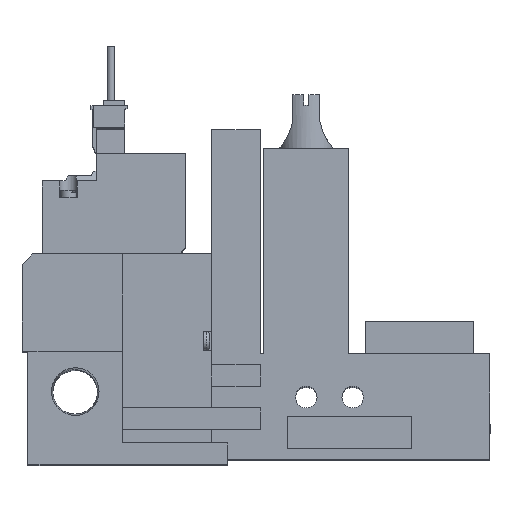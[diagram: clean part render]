
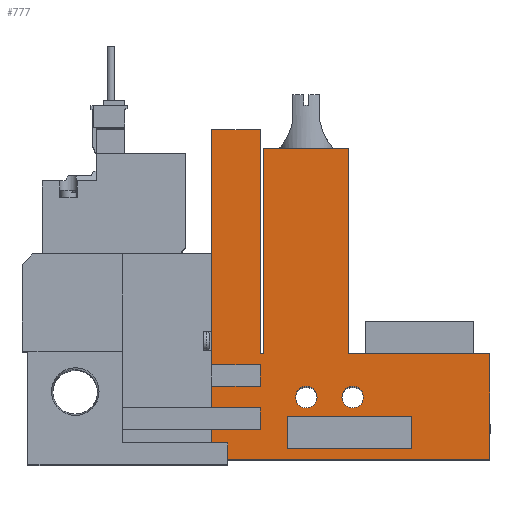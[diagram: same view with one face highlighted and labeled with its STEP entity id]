
A CAD part, top view. The second image highlights one B-rep face of the part: STEP entity #777.
In plain terms, the highlighted planar face has unit normal (0, 0, 1).
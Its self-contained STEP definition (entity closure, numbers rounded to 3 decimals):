
#777=ADVANCED_FACE('',(#1512,#1513,#1514,#1515),#1516,.T.);
#1512=FACE_OUTER_BOUND('',#2514,.T.);
#1513=FACE_BOUND('',#2515,.T.);
#1514=FACE_BOUND('',#2516,.T.);
#1515=FACE_BOUND('',#2517,.T.);
#1516=PLANE('',#2518);
#2514=EDGE_LOOP('',(#5175,#5176,#5177,#5178,#5179,#5180,#5181,#5182,#5183,#5184,#5185,#5186,#5187,#5188,#5189,#5190,#5191,#5192));
#2515=EDGE_LOOP('',(#5193,#5194,#5195,#5196));
#2516=EDGE_LOOP('',(#5197));
#2517=EDGE_LOOP('',(#5198));
#2518=AXIS2_PLACEMENT_3D('',#5199,#5200,#5201);
#5175=ORIENTED_EDGE('',*,*,#7031,.T.);
#5176=ORIENTED_EDGE('',*,*,#7032,.T.);
#5177=ORIENTED_EDGE('',*,*,#6985,.T.);
#5178=ORIENTED_EDGE('',*,*,#7033,.T.);
#5179=ORIENTED_EDGE('',*,*,#6994,.T.);
#5180=ORIENTED_EDGE('',*,*,#6967,.T.);
#5181=ORIENTED_EDGE('',*,*,#7034,.T.);
#5182=ORIENTED_EDGE('',*,*,#7029,.T.);
#5183=ORIENTED_EDGE('',*,*,#7035,.T.);
#5184=ORIENTED_EDGE('',*,*,#7036,.T.);
#5185=ORIENTED_EDGE('',*,*,#6946,.T.);
#5186=ORIENTED_EDGE('',*,*,#7037,.T.);
#5187=ORIENTED_EDGE('',*,*,#7038,.T.);
#5188=ORIENTED_EDGE('',*,*,#6991,.T.);
#5189=ORIENTED_EDGE('',*,*,#7039,.T.);
#5190=ORIENTED_EDGE('',*,*,#7040,.T.);
#5191=ORIENTED_EDGE('',*,*,#6963,.T.);
#5192=ORIENTED_EDGE('',*,*,#7026,.T.);
#5193=ORIENTED_EDGE('',*,*,#7041,.T.);
#5194=ORIENTED_EDGE('',*,*,#6988,.T.);
#5195=ORIENTED_EDGE('',*,*,#7042,.T.);
#5196=ORIENTED_EDGE('',*,*,#7043,.T.);
#5197=ORIENTED_EDGE('',*,*,#6952,.T.);
#5198=ORIENTED_EDGE('',*,*,#7044,.T.);
#5199=CARTESIAN_POINT('',(0.0,0.0,10.0));
#5200=DIRECTION('',(0.0,0.0,1.0));
#5201=DIRECTION('',(1.0,0.0,0.0));
#6946=EDGE_CURVE('',#8443,#8441,#8444,.T.);
#6952=EDGE_CURVE('',#8453,#8453,#8454,.T.);
#6963=EDGE_CURVE('',#8476,#8474,#8477,.T.);
#6967=EDGE_CURVE('',#8483,#8484,#8485,.T.);
#6985=EDGE_CURVE('',#8508,#8513,#8515,.T.);
#6988=EDGE_CURVE('',#8516,#8518,#8520,.T.);
#6991=EDGE_CURVE('',#8526,#8524,#8527,.T.);
#6994=EDGE_CURVE('',#8530,#8483,#8531,.T.);
#7026=EDGE_CURVE('',#8474,#8575,#8577,.T.);
#7029=EDGE_CURVE('',#8582,#8580,#8583,.T.);
#7031=EDGE_CURVE('',#8575,#8585,#8586,.T.);
#7032=EDGE_CURVE('',#8585,#8508,#8587,.T.);
#7033=EDGE_CURVE('',#8513,#8530,#8588,.T.);
#7034=EDGE_CURVE('',#8484,#8582,#8589,.T.);
#7035=EDGE_CURVE('',#8580,#8590,#8591,.T.);
#7036=EDGE_CURVE('',#8590,#8443,#8592,.T.);
#7037=EDGE_CURVE('',#8441,#8593,#8594,.T.);
#7038=EDGE_CURVE('',#8593,#8526,#8595,.T.);
#7039=EDGE_CURVE('',#8524,#8596,#8597,.T.);
#7040=EDGE_CURVE('',#8596,#8476,#8598,.T.);
#7041=EDGE_CURVE('',#8599,#8516,#8600,.T.);
#7042=EDGE_CURVE('',#8518,#8601,#8602,.T.);
#7043=EDGE_CURVE('',#8601,#8599,#8603,.T.);
#7044=EDGE_CURVE('',#8604,#8604,#8605,.T.);
#8441=VERTEX_POINT('',#10857);
#8443=VERTEX_POINT('',#10860);
#8444=LINE('',#10861,#10862);
#8453=VERTEX_POINT('',#10875);
#8454=CIRCLE('',#10876,2.0);
#8474=VERTEX_POINT('',#10905);
#8476=VERTEX_POINT('',#10908);
#8477=LINE('',#10909,#10910);
#8483=VERTEX_POINT('',#10917);
#8484=VERTEX_POINT('',#10918);
#8485=LINE('',#10919,#10920);
#8508=VERTEX_POINT('',#10955);
#8513=VERTEX_POINT('',#10962);
#8515=LINE('',#10965,#10966);
#8516=VERTEX_POINT('',#10967);
#8518=VERTEX_POINT('',#10970);
#8520=LINE('',#10973,#10974);
#8524=VERTEX_POINT('',#10979);
#8526=VERTEX_POINT('',#10982);
#8527=LINE('',#10983,#10984);
#8530=VERTEX_POINT('',#10989);
#8531=LINE('',#10990,#10991);
#8575=VERTEX_POINT('',#11061);
#8577=LINE('',#11064,#11065);
#8580=VERTEX_POINT('',#11069);
#8582=VERTEX_POINT('',#11072);
#8583=LINE('',#11073,#11074);
#8585=VERTEX_POINT('',#11077);
#8586=LINE('',#11078,#11079);
#8587=LINE('',#11080,#11081);
#8588=LINE('',#11082,#11083);
#8589=LINE('',#11084,#11085);
#8590=VERTEX_POINT('',#11086);
#8591=LINE('',#11087,#11088);
#8592=LINE('',#11089,#11090);
#8593=VERTEX_POINT('',#11091);
#8594=LINE('',#11092,#11093);
#8595=LINE('',#11094,#11095);
#8596=VERTEX_POINT('',#11096);
#8597=LINE('',#11097,#11098);
#8598=LINE('',#11099,#11100);
#8599=VERTEX_POINT('',#11101);
#8600=LINE('',#11102,#11103);
#8601=VERTEX_POINT('',#11104);
#8602=LINE('',#11105,#11106);
#8603=LINE('',#11107,#11108);
#8604=VERTEX_POINT('',#11109);
#8605=CIRCLE('',#11110,2.0);
#10857=CARTESIAN_POINT('',(86.6,19.5,10.0));
#10860=CARTESIAN_POINT('',(86.6,0.0,10.0));
#10861=CARTESIAN_POINT('',(86.6,0.0,10.0));
#10862=VECTOR('',#12770,1.0);
#10875=CARTESIAN_POINT('',(54.6,11.5,10.0));
#10876=AXIS2_PLACEMENT_3D('',#12778,#12779,#12780);
#10905=CARTESIAN_POINT('',(44.1,61.0,10.0));
#10908=CARTESIAN_POINT('',(44.1,19.5,10.0));
#10909=CARTESIAN_POINT('',(44.1,19.5,10.0));
#10910=VECTOR('',#12791,1.0);
#10917=CARTESIAN_POINT('',(35.1,9.5,10.0));
#10918=CARTESIAN_POINT('',(44.1,9.5,10.0));
#10919=CARTESIAN_POINT('',(0.0,9.5,10.0));
#10920=VECTOR('',#12799,1.0);
#10955=CARTESIAN_POINT('',(44.1,17.5,10.0));
#10962=CARTESIAN_POINT('',(44.1,13.5,10.0));
#10965=CARTESIAN_POINT('',(44.1,0.0,10.0));
#10966=VECTOR('',#12821,1.0);
#10967=CARTESIAN_POINT('',(49.1,8.0,10.0));
#10970=CARTESIAN_POINT('',(72.1,8.0,10.0));
#10973=CARTESIAN_POINT('',(0.0,8.0,10.0));
#10974=VECTOR('',#12824,1.0);
#10979=CARTESIAN_POINT('',(44.75,57.5,10.0));
#10982=CARTESIAN_POINT('',(60.45,57.5,10.0));
#10983=CARTESIAN_POINT('',(60.45,57.5,10.0));
#10984=VECTOR('',#12827,1.0);
#10989=CARTESIAN_POINT('',(35.1,13.5,10.0));
#10990=CARTESIAN_POINT('',(35.1,0.0,10.0));
#10991=VECTOR('',#12830,1.0);
#11061=CARTESIAN_POINT('',(35.1,61.0,10.0));
#11064=CARTESIAN_POINT('',(44.1,61.0,10.0));
#11065=VECTOR('',#12870,1.0);
#11069=CARTESIAN_POINT('',(35.1,5.5,10.0));
#11072=CARTESIAN_POINT('',(44.1,5.5,10.0));
#11073=CARTESIAN_POINT('',(0.0,5.5,10.0));
#11074=VECTOR('',#12873,1.0);
#11077=CARTESIAN_POINT('',(35.1,17.5,10.0));
#11078=CARTESIAN_POINT('',(35.1,61.0,10.0));
#11079=VECTOR('',#12875,1.0);
#11080=CARTESIAN_POINT('',(0.0,17.5,10.0));
#11081=VECTOR('',#12876,1.0);
#11082=CARTESIAN_POINT('',(0.0,13.5,10.0));
#11083=VECTOR('',#12877,1.0);
#11084=CARTESIAN_POINT('',(44.1,0.0,10.0));
#11085=VECTOR('',#12878,1.0);
#11086=CARTESIAN_POINT('',(35.1,0.0,10.0));
#11087=CARTESIAN_POINT('',(35.1,0.0,10.0));
#11088=VECTOR('',#12879,1.0);
#11089=CARTESIAN_POINT('',(18.6,0.0,10.0));
#11090=VECTOR('',#12880,1.0);
#11091=CARTESIAN_POINT('',(60.45,19.5,10.0));
#11092=CARTESIAN_POINT('',(86.6,19.5,10.0));
#11093=VECTOR('',#12881,1.0);
#11094=CARTESIAN_POINT('',(60.45,19.5,10.0));
#11095=VECTOR('',#12882,1.0);
#11096=CARTESIAN_POINT('',(44.75,19.5,10.0));
#11097=CARTESIAN_POINT('',(44.75,57.5,10.0));
#11098=VECTOR('',#12883,1.0);
#11099=CARTESIAN_POINT('',(44.75,19.5,10.0));
#11100=VECTOR('',#12884,1.0);
#11101=CARTESIAN_POINT('',(49.1,2.0,10.0));
#11102=CARTESIAN_POINT('',(49.1,0.0,10.0));
#11103=VECTOR('',#12885,1.0);
#11104=CARTESIAN_POINT('',(72.1,2.0,10.0));
#11105=CARTESIAN_POINT('',(72.1,0.0,10.0));
#11106=VECTOR('',#12886,1.0);
#11107=CARTESIAN_POINT('',(0.0,2.0,10.0));
#11108=VECTOR('',#12887,1.0);
#11109=CARTESIAN_POINT('',(63.2,11.5,10.0));
#11110=AXIS2_PLACEMENT_3D('',#12888,#12889,#12890);
#12770=DIRECTION('',(0.0,1.0,0.0));
#12778=CARTESIAN_POINT('',(52.6,11.5,10.0));
#12779=DIRECTION('',(0.0,0.0,-1.0));
#12780=DIRECTION('',(1.0,0.0,0.0));
#12791=DIRECTION('',(0.0,1.0,0.0));
#12799=DIRECTION('',(1.0,0.0,0.0));
#12821=DIRECTION('',(0.0,-1.0,0.0));
#12824=DIRECTION('',(1.0,0.0,0.0));
#12827=DIRECTION('',(-1.0,0.0,0.0));
#12830=DIRECTION('',(0.0,-1.0,0.0));
#12870=DIRECTION('',(-1.0,0.0,0.0));
#12873=DIRECTION('',(-1.0,0.0,0.0));
#12875=DIRECTION('',(0.0,-1.0,0.0));
#12876=DIRECTION('',(1.0,0.0,0.0));
#12877=DIRECTION('',(-1.0,0.0,0.0));
#12878=DIRECTION('',(0.0,-1.0,0.0));
#12879=DIRECTION('',(0.0,-1.0,0.0));
#12880=DIRECTION('',(1.0,0.0,0.0));
#12881=DIRECTION('',(-1.0,0.0,0.0));
#12882=DIRECTION('',(0.0,1.0,0.0));
#12883=DIRECTION('',(0.0,-1.0,0.0));
#12884=DIRECTION('',(-1.0,0.0,0.0));
#12885=DIRECTION('',(0.0,1.0,0.0));
#12886=DIRECTION('',(0.0,-1.0,0.0));
#12887=DIRECTION('',(-1.0,0.0,0.0));
#12888=CARTESIAN_POINT('',(61.2,11.5,10.0));
#12889=DIRECTION('',(0.0,0.0,-1.0));
#12890=DIRECTION('',(1.0,0.0,0.0));
